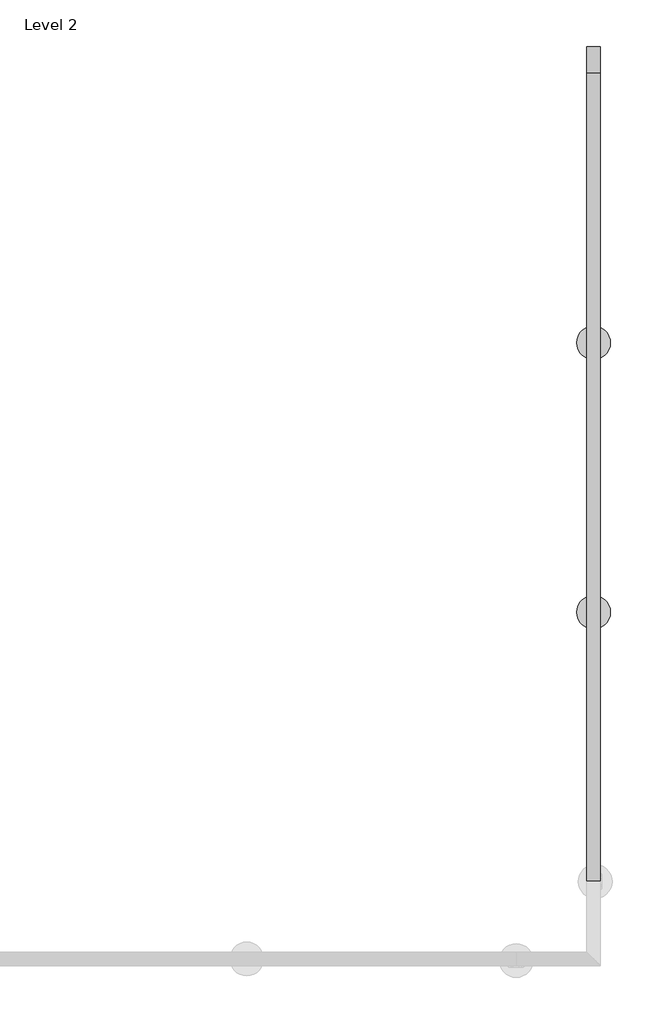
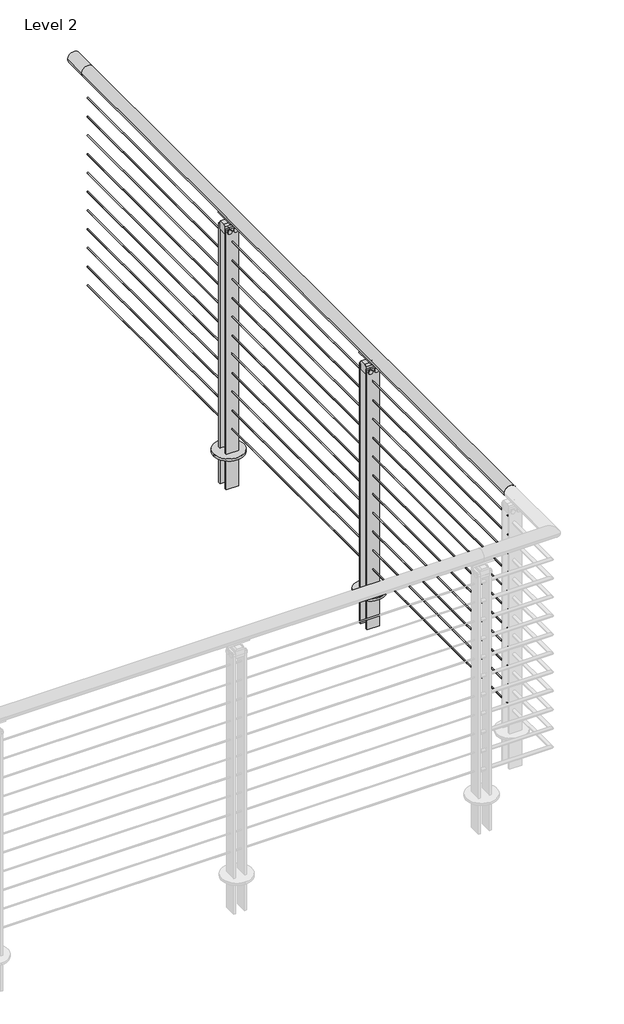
# One storey, part 31 of 31: 1 railing.
"""IFC4 building model written with IfcOpenShell, lengths in millimetres."""

import ifcopenshell
import ifcopenshell.guid

model = None  # the IFC model being written
_history = None  # IfcOwnerHistory: only IFC2X3 demands one
_inside = {}  # id of a spatial element -> (the spatial element, [elements in it])
_under = {}  # id of a project, library or spatial element -> (it, [spatial elements below it])
_declared = {}  # id of a project -> (the project, [libraries it declares])
_typed = {}  # id of a type object -> (the type object, [elements of that type])
_made_of = {}  # id of a material, layer set ... -> (it, [elements and type objects made of it])


def new_model(schema):
    """Start an empty IFC model of exactly this schema.

    Asked for "IFC4X3", IfcOpenShell would pick the latest addendum, in which some entities
    have other attributes; the version numbers below select the first issue.
    IFC2X3 requires an IfcOwnerHistory on every rooted entity: one is made here for all.
    """
    global model, _history
    if schema == "IFC4X3":
        model = ifcopenshell.file(schema_version=(4, 3, 0, 0))
    else:
        model = ifcopenshell.file(schema=schema)
    _inside.clear()
    _under.clear()
    _declared.clear()
    _typed.clear()
    _made_of.clear()
    _history = None
    if model.schema == "IFC2X3":
        org = make("IfcOrganization", Name="unknown")
        user = make(
            "IfcPersonAndOrganization",
            ThePerson=make("IfcPerson", FamilyName="unknown"),
            TheOrganization=org,
        )
        app = make(
            "IfcApplication",
            ApplicationDeveloper=org,
            Version="unknown",
            ApplicationFullName="unknown",
            ApplicationIdentifier="unknown",
        )
        _history = make(
            "IfcOwnerHistory",
            OwningUser=user,
            OwningApplication=app,
            ChangeAction="ADDED",
            CreationDate=0,
        )
    return model


def make(cls, **values):
    """One entity of the class cls with the attributes given. An attribute that is None is left unset."""
    return model.create_entity(
        cls, **{name: value for name, value in values.items() if value is not None}
    )


def rooted(cls, **values):
    """An entity with a GlobalId (a new one), such as an element, a storey or a relation."""
    return make(cls, GlobalId=ifcopenshell.guid.new(), OwnerHistory=_history, **values)


def si_unit(unit_type, name, prefix=None):
    """IfcSIUnit, for example si_unit("LENGTHUNIT", "METRE", prefix="MILLI")."""
    return make("IfcSIUnit", UnitType=unit_type, Prefix=prefix, Name=name)


def assignment(units):
    """IfcUnitAssignment: the units of a project."""
    return None if units is None else make("IfcUnitAssignment", Units=units)


def point(xyz):
    """IfcCartesianPoint."""
    return None if xyz is None else make("IfcCartesianPoint", Coordinates=xyz)


def direction(xyz):
    """IfcDirection."""
    return None if xyz is None else make("IfcDirection", DirectionRatios=xyz)


def frame(location, z_axis=None, x_axis=None):
    """IfcAxis2Placement3D, a coordinate frame: its origin and axes. An axis left out is left unset."""
    return make(
        "IfcAxis2Placement3D",
        Location=point(location),
        Axis=direction(z_axis),
        RefDirection=direction(x_axis),
    )


def frame_2d(location, x_axis=None):
    """IfcAxis2Placement2D, a coordinate frame in the plane: its origin and x axis."""
    return make(
        "IfcAxis2Placement2D", Location=point(location), RefDirection=direction(x_axis)
    )


def origin():
    """The frame at (0, 0, 0) with its axes left unset."""
    return frame((0.0, 0.0, 0.0))


def place(relative_to, where):
    """IfcLocalPlacement: puts the frame where relative to a parent placement (None: the world)."""
    return make(
        "IfcLocalPlacement", PlacementRelTo=relative_to, RelativePlacement=where
    )


def context(
    kind, dimensions, precision=None, world=None, true_north=None, identifier=None
):
    """IfcGeometricRepresentationContext, for example the 3D "Model" context."""
    return make(
        "IfcGeometricRepresentationContext",
        ContextIdentifier=identifier,
        ContextType=kind,
        CoordinateSpaceDimension=dimensions,
        Precision=precision,
        WorldCoordinateSystem=world,
        TrueNorth=true_north,
    )


def project(units=None, contexts=None):
    """IfcProject with its units and contexts."""
    return rooted(
        "IfcProject",
        Name="project",
        RepresentationContexts=contexts,
        UnitsInContext=assignment(units),
    )


def spatial(cls, under=None, at=None, **own):
    """A site, building, storey or space (cls), placed at a placement, below another one or the project."""
    s = rooted(cls, ObjectPlacement=at, **own)
    if under is not None:
        _under.setdefault(under.id(), (under, []))[1].append(s)
    return s


def polyline(points):
    """IfcPolyline through the points."""
    return make("IfcPolyline", Points=[point(p) for p in points])


def circle_curve(where, radius):
    """IfcCircle in the frame where."""
    return make("IfcCircle", Position=where, Radius=radius)


def trimmed(basis, trim1, trim2, sense, master):
    """IfcTrimmedCurve: the piece of a basis curve between two trims."""
    return make(
        "IfcTrimmedCurve",
        BasisCurve=basis,
        Trim1=trim1,
        Trim2=trim2,
        SenseAgreement=sense,
        MasterRepresentation=master,
    )


def segment(curve, same_sense, transition):
    """IfcCompositeCurveSegment."""
    return make(
        "IfcCompositeCurveSegment",
        Transition=transition,
        SameSense=same_sense,
        ParentCurve=curve,
    )


def composite_curve(segments, self_intersect=None):
    """IfcCompositeCurve: segments joined end to end."""
    return make("IfcCompositeCurve", Segments=segments, SelfIntersect=self_intersect)


def outline(outer, holes=None, kind="AREA"):
    """IfcArbitraryClosedProfileDef: a profile drawn as a closed curve; with holes, ...WithVoids."""
    if holes is None:
        return make("IfcArbitraryClosedProfileDef", ProfileType=kind, OuterCurve=outer)
    return make(
        "IfcArbitraryProfileDefWithVoids",
        ProfileType=kind,
        OuterCurve=outer,
        InnerCurves=holes,
    )


def extrude(swept, where, along, depth):
    """IfcExtrudedAreaSolid: the profile swept, set in the frame where, extruded along a direction by depth."""
    return make(
        "IfcExtrudedAreaSolid",
        SweptArea=swept,
        Position=where,
        ExtrudedDirection=direction(along),
        Depth=depth,
    )


def shape(context_of_items, identifier, shape_type, items):
    """IfcShapeRepresentation: the items that make up one representation, for example the "Body"."""
    return make(
        "IfcShapeRepresentation",
        ContextOfItems=context_of_items,
        RepresentationIdentifier=identifier,
        RepresentationType=shape_type,
        Items=items,
    )


def made_of(thing, what):
    """Note that an element or type object is made of a material, layer set ...; save() writes the relation."""
    if what is not None:
        _made_of.setdefault(what.id(), (what, []))[1].append(thing)
    return thing


def element(
    cls,
    number,
    at=None,
    inside=None,
    cuts=None,
    type_object=None,
    material=None,
    context=None,
    identifier="Body",
    shape_type=None,
    held_by="IfcProductDefinitionShape",
    body=None,
    shapes=None,
    **own,
):
    """One element of the class cls, such as IfcWall. Its Tag is "e" and its number.

    at: its placement. inside: the storey or other place that contains it. cuts: it is an
    opening in that element (IfcRelVoidsElement). A single representation is given by context,
    identifier, shape_type and body (its items); several are given by shapes. held_by: the class
    of the entity that holds the representations. save() writes the other relations.
    """
    e = rooted(cls, Tag="e%d" % number, ObjectPlacement=at, **own)
    if body is not None:
        shapes = [shape(context, identifier, shape_type, body)]
    if shapes is not None:
        e.Representation = make(held_by, Representations=shapes)
    if inside is not None:
        _inside.setdefault(inside.id(), (inside, []))[1].append(e)
    if cuts is not None:
        rooted(
            "IfcRelVoidsElement", RelatingBuildingElement=cuts, RelatedOpeningElement=e
        )
    if type_object is not None:
        _typed.setdefault(type_object.id(), (type_object, []))[1].append(e)
    return made_of(e, material)


def aggregate(whole, parts):
    """IfcRelAggregates: a whole, such as a stair, and the parts it consists of."""
    return rooted("IfcRelAggregates", RelatingObject=whole, RelatedObjects=parts)


def save(model, path):
    """Write the relations noted so far, then the file.

    IfcRelAggregates (storeys below a building ...), IfcRelContainedInSpatialStructure (elements
    in a storey), IfcRelDefinesByType, IfcRelAssociatesMaterial and IfcRelDeclares: one each for
    every whole, place, type object, material and project.
    """
    for whole, parts in _under.values():
        aggregate(whole, parts)
    for where, things in _inside.values():
        rooted(
            "IfcRelContainedInSpatialStructure",
            RelatedElements=things,
            RelatingStructure=where,
        )
    for kind, things in _typed.values():
        rooted("IfcRelDefinesByType", RelatedObjects=things, RelatingType=kind)
    for what, things in _made_of.values():
        rooted("IfcRelAssociatesMaterial", RelatedObjects=things, RelatingMaterial=what)
    for by, libraries in _declared.values():
        rooted("IfcRelDeclares", RelatingContext=by, RelatedDefinitions=libraries)
    model.write(path)


def plane_surface(at):
    """IfcPlane: the flat surface through the origin of the frame at, square to its z axis."""
    return make("IfcPlane", Position=at)


def cylinder_surface(at, radius):
    """IfcCylindricalSurface: all points at the distance radius from the z axis of the frame at."""
    return make("IfcCylindricalSurface", Position=at, Radius=radius)


def revolved_surface(curve, axis_point, axis_direction):
    """IfcSurfaceOfRevolution: the curve turned about the line through axis_point along axis_direction."""
    return make(
        "IfcSurfaceOfRevolution",
        SweptCurve=make("IfcArbitraryOpenProfileDef", ProfileType="CURVE", Curve=curve),
        AxisPosition=make("IfcAxis1Placement", Location=point(axis_point), Axis=direction(axis_direction)),
    )


def advanced_brep(points, edges, surfaces, faces):
    """IfcAdvancedBrep: a solid bounded by faces that lie on surfaces and meet in shared edges.

    An edge is (start, end): straight between two places in points (the first is 0);
    or (start, end, curve); or (start, end, curve, False) where it runs against its curve.
    A face is (place in surfaces, loops), or (place, loops, False) where it looks against
    its surface's normal. A loop lists edges by number (the first is 1), with a minus sign
    where the edge is run from its end to its start. The first loop is the outer one.
    """
    corners = [point(p) for p in points]
    vertices = [make("IfcVertexPoint", VertexGeometry=c) for c in corners]
    made = []
    for start, end, *more in edges:
        made.append(
            make(
                "IfcEdgeCurve",
                EdgeStart=vertices[start],
                EdgeEnd=vertices[end],
                EdgeGeometry=more[0] if more else make("IfcPolyline", Points=[corners[start], corners[end]]),
                SameSense=more[1] if len(more) > 1 else True,
            )
        )
    hull = []
    for where, loops, *sense in faces:
        bounds = []
        for j, loop in enumerate(loops):
            ring = [make("IfcOrientedEdge", EdgeElement=made[abs(k) - 1], Orientation=k > 0) for k in loop]
            bounds.append(
                make(
                    "IfcFaceOuterBound" if j == 0 else "IfcFaceBound",
                    Bound=make("IfcEdgeLoop", EdgeList=ring),
                    Orientation=True,
                )
            )
        hull.append(make("IfcAdvancedFace", Bounds=bounds, FaceSurface=surfaces[where], SameSense=sense[0] if sense else True))
    return make("IfcAdvancedBrep", Outer=make("IfcClosedShell", CfsFaces=hull))


model = new_model("IFC4")

# Units and contexts
model_context = context("Model", 3, world=origin())
ifc_project = project(units=[si_unit("LENGTHUNIT", "METRE", prefix="MILLI")], contexts=[model_context])

# Site, building, storey
site = spatial("IfcSite", under=ifc_project)
building = spatial("IfcBuilding", under=site)
storey = spatial("IfcBuildingStorey", under=building, Name="Level 2", Elevation=3048.0)

# Railing
placement = place(None, origin())
element("IfcRailing", 1, ObjectType="VIVA-BLADE-Cable-Core Mount-Straight", at=placement, inside=storey, context=model_context, shape_type="SolidModel", body=[
    advanced_brep(
    [(71190.5310647, -51812.6426165, 4102.1), (71139.7310647, -51812.6426165, 4102.1), (71190.5310647, -48764.6426165, 4102.1), (71139.7310647, -48764.6426165, 4102.1), (71190.5310647, -48663.0426165, 4102.1), (71139.7310647, -48663.0426165, 4102.1)],
    [
        (0, 1, circle_curve(frame((71165.1310647, -51812.6426165, 4102.1), z_axis=(0.0, -1.0, 0.0), x_axis=(-1.0, 0.0, 0.0)), 25.4)),
        (1, 0, circle_curve(frame((71165.1310647, -51812.6426165, 4102.1), z_axis=(0.0, -1.0, 0.0), x_axis=(-1.0, 0.0, 0.0)), 25.4)),
        (0, 2),
        (2, 3, circle_curve(frame((71165.1310647, -48764.6426165, 4102.1), z_axis=(0.0, -1.0, 0.0), x_axis=(-1.0, 0.0, 0.0)), 25.4)),
        (3, 1),
        (3, 2, circle_curve(frame((71165.1310647, -48764.6426165, 4102.1), z_axis=(0.0, -1.0, 0.0), x_axis=(-1.0, 0.0, 0.0)), 25.4)),
        (4, 5, circle_curve(frame((71165.1310647, -48663.0426165, 4102.1), z_axis=(0.0, 1.0, 0.0), x_axis=(-1.0, 0.0, 0.0)), 25.4)),
        (5, 4, circle_curve(frame((71165.1310647, -48663.0426165, 4102.1), z_axis=(0.0, 1.0, 0.0), x_axis=(-1.0, 0.0, 0.0)), 25.4)),
        (2, 4),
        (5, 3),
    ],
    [
        plane_surface(frame((71165.1310647, -51812.6426165, 4127.5), z_axis=(0.0, -1.0, 0.0), x_axis=(0.0, 0.0, 1.0))),
        cylinder_surface(frame((71165.1310647, -51812.6426165, 4102.1), z_axis=(0.0, -1.0, 0.0), x_axis=(-1.0, 0.0, 0.0)), 25.4),
        plane_surface(frame((71165.1310647, -48663.0426165, 4127.5), z_axis=(0.0, 1.0, 0.0), x_axis=(0.0, 0.0, 1.0))),
        cylinder_surface(frame((71165.1310647, -48764.6426165, 4102.1), z_axis=(0.0, -1.0, 0.0), x_axis=(-1.0, 0.0, 0.0)), 25.4),
    ],
    [
        (0, [[1, 2]]),
        (1, [[-1, 3, 4, 5]]),
        (1, [[-2, -5, 6, -3]]),
        (2, [[7, 8]]),
        (3, [[-4, 9, -8, 10]]),
        (3, [[-6, -10, -7, -9]]),
    ],
),
    extrude(outline(composite_curve([segment(trimmed(circle_curve(frame_2d((3985.4124, 71165.1310647)), 2.3876), [point((3985.4124, 71162.7434647))], [point((3985.4124, 71167.5186647))], False, "CARTESIAN"), True, "CONTINUOUS"), segment(trimmed(circle_curve(frame_2d((3985.4124, 71165.1310647)), 2.3876), [point((3985.4124, 71167.5186647))], [point((3985.4124, 71162.7434647))], False, "CARTESIAN"), True, "CONTINUOUS")], self_intersect=False)), frame((0.0, -51812.6426165, 0.0), z_axis=(0.0, 1.0, 0.0), x_axis=(0.0, 0.0, 1.0)), (0.0, 0.0, 1.0), 3048.0),
    extrude(outline(composite_curve([segment(trimmed(circle_curve(frame_2d((3902.8624, 71165.1310647)), 2.3876), [point((3902.8624, 71162.7434647))], [point((3902.8624, 71167.5186647))], False, "CARTESIAN"), True, "CONTINUOUS"), segment(trimmed(circle_curve(frame_2d((3902.8624, 71165.1310647)), 2.3876), [point((3902.8624, 71167.5186647))], [point((3902.8624, 71162.7434647))], False, "CARTESIAN"), True, "CONTINUOUS")], self_intersect=False)), frame((0.0, -51812.6426165, 0.0), z_axis=(0.0, 1.0, 0.0), x_axis=(0.0, 0.0, 1.0)), (0.0, 0.0, 1.0), 3048.0),
    extrude(outline(composite_curve([segment(trimmed(circle_curve(frame_2d((3820.3124, 71165.1310647)), 2.3876), [point((3820.3124, 71162.7434647))], [point((3820.3124, 71167.5186647))], False, "CARTESIAN"), True, "CONTINUOUS"), segment(trimmed(circle_curve(frame_2d((3820.3124, 71165.1310647)), 2.3876), [point((3820.3124, 71167.5186647))], [point((3820.3124, 71162.7434647))], False, "CARTESIAN"), True, "CONTINUOUS")], self_intersect=False)), frame((0.0, -51812.6426165, 0.0), z_axis=(0.0, 1.0, 0.0), x_axis=(0.0, 0.0, 1.0)), (0.0, 0.0, 1.0), 3048.0),
    extrude(outline(composite_curve([segment(trimmed(circle_curve(frame_2d((3737.7624, 71165.1310647)), 2.3876), [point((3737.7624, 71162.7434647))], [point((3737.7624, 71167.5186647))], False, "CARTESIAN"), True, "CONTINUOUS"), segment(trimmed(circle_curve(frame_2d((3737.7624, 71165.1310647)), 2.3876), [point((3737.7624, 71167.5186647))], [point((3737.7624, 71162.7434647))], False, "CARTESIAN"), True, "CONTINUOUS")], self_intersect=False)), frame((0.0, -51812.6426165, 0.0), z_axis=(0.0, 1.0, 0.0), x_axis=(0.0, 0.0, 1.0)), (0.0, 0.0, 1.0), 3048.0),
    extrude(outline(composite_curve([segment(trimmed(circle_curve(frame_2d((3655.2124, 71165.1310647)), 2.3876), [point((3655.2124, 71162.7434647))], [point((3655.2124, 71167.5186647))], False, "CARTESIAN"), True, "CONTINUOUS"), segment(trimmed(circle_curve(frame_2d((3655.2124, 71165.1310647)), 2.3876), [point((3655.2124, 71167.5186647))], [point((3655.2124, 71162.7434647))], False, "CARTESIAN"), True, "CONTINUOUS")], self_intersect=False)), frame((0.0, -51812.6426165, 0.0), z_axis=(0.0, 1.0, 0.0), x_axis=(0.0, 0.0, 1.0)), (0.0, 0.0, 1.0), 3048.0),
    extrude(outline(composite_curve([segment(trimmed(circle_curve(frame_2d((3572.6624, 71165.1310647)), 2.3876), [point((3572.6624, 71162.7434647))], [point((3572.6624, 71167.5186647))], False, "CARTESIAN"), True, "CONTINUOUS"), segment(trimmed(circle_curve(frame_2d((3572.6624, 71165.1310647)), 2.3876), [point((3572.6624, 71167.5186647))], [point((3572.6624, 71162.7434647))], False, "CARTESIAN"), True, "CONTINUOUS")], self_intersect=False)), frame((0.0, -51812.6426165, 0.0), z_axis=(0.0, 1.0, 0.0), x_axis=(0.0, 0.0, 1.0)), (0.0, 0.0, 1.0), 3048.0),
    extrude(outline(composite_curve([segment(trimmed(circle_curve(frame_2d((3490.1124, 71165.1310647)), 2.3876), [point((3490.1124, 71162.7434647))], [point((3490.1124, 71167.5186647))], False, "CARTESIAN"), True, "CONTINUOUS"), segment(trimmed(circle_curve(frame_2d((3490.1124, 71165.1310647)), 2.3876), [point((3490.1124, 71167.5186647))], [point((3490.1124, 71162.7434647))], False, "CARTESIAN"), True, "CONTINUOUS")], self_intersect=False)), frame((0.0, -51812.6426165, 0.0), z_axis=(0.0, 1.0, 0.0), x_axis=(0.0, 0.0, 1.0)), (0.0, 0.0, 1.0), 3048.0),
    extrude(outline(composite_curve([segment(trimmed(circle_curve(frame_2d((3407.5624, 71165.1310647)), 2.3876), [point((3407.5624, 71162.7434647))], [point((3407.5624, 71167.5186647))], False, "CARTESIAN"), True, "CONTINUOUS"), segment(trimmed(circle_curve(frame_2d((3407.5624, 71165.1310647)), 2.3876), [point((3407.5624, 71167.5186647))], [point((3407.5624, 71162.7434647))], False, "CARTESIAN"), True, "CONTINUOUS")], self_intersect=False)), frame((0.0, -51812.6426165, 0.0), z_axis=(0.0, 1.0, 0.0), x_axis=(0.0, 0.0, 1.0)), (0.0, 0.0, 1.0), 3048.0),
    extrude(outline(composite_curve([segment(trimmed(circle_curve(frame_2d((3325.0124, 71165.1310647)), 2.3876), [point((3325.0124, 71162.7434647))], [point((3325.0124, 71167.5186647))], False, "CARTESIAN"), True, "CONTINUOUS"), segment(trimmed(circle_curve(frame_2d((3325.0124, 71165.1310647)), 2.3876), [point((3325.0124, 71167.5186647))], [point((3325.0124, 71162.7434647))], False, "CARTESIAN"), True, "CONTINUOUS")], self_intersect=False)), frame((0.0, -51812.6426165, 0.0), z_axis=(0.0, 1.0, 0.0), x_axis=(0.0, 0.0, 1.0)), (0.0, 0.0, 1.0), 3048.0),
    extrude(outline(composite_curve([segment(trimmed(circle_curve(frame_2d((3242.4624, 71165.1310647)), 2.3876), [point((3242.4624, 71162.7434647))], [point((3242.4624, 71167.5186647))], False, "CARTESIAN"), True, "CONTINUOUS"), segment(trimmed(circle_curve(frame_2d((3242.4624, 71165.1310647)), 2.3876), [point((3242.4624, 71167.5186647))], [point((3242.4624, 71162.7434647))], False, "CARTESIAN"), True, "CONTINUOUS")], self_intersect=False)), frame((0.0, -51812.6426165, 0.0), z_axis=(0.0, 1.0, 0.0), x_axis=(0.0, 0.0, 1.0)), (0.0, 0.0, 1.0), 3048.0),
    extrude(outline(composite_curve([segment(trimmed(circle_curve(frame_2d((3159.9124, 71165.1310647)), 2.3876), [point((3159.9124, 71162.7434647))], [point((3159.9124, 71167.5186647))], False, "CARTESIAN"), True, "CONTINUOUS"), segment(trimmed(circle_curve(frame_2d((3159.9124, 71165.1310647)), 2.3876), [point((3159.9124, 71167.5186647))], [point((3159.9124, 71162.7434647))], False, "CARTESIAN"), True, "CONTINUOUS")], self_intersect=False)), frame((0.0, -51812.6426165, 0.0), z_axis=(0.0, 1.0, 0.0), x_axis=(0.0, 0.0, 1.0)), (0.0, 0.0, 1.0), 3048.0),
    extrude(outline(polyline([(71139.7312681, -49807.7174522), (71139.7312681, -49799.6926165), (71190.5335927, -49799.6926165), (71190.5335927, -49807.7174522), (71139.7312681, -49807.7174522)])), frame((0.0, 0.0, 2901.95), z_axis=(0.0, 0.0, 1.0), x_axis=(1.0, 0.0, 0.0)), (0.0, 0.0, 1.0), 146.05),
    extrude(outline(polyline([(71139.7312681, -49761.5926546), (71139.7312681, -49753.5916546), (71190.5335927, -49753.5916546), (71190.5335927, -49761.5926546), (71139.7312681, -49761.5926546)])), frame((0.0, 0.0, 2901.95), z_axis=(0.0, 0.0, 1.0), x_axis=(1.0, 0.0, 0.0)), (0.0, 0.0, 1.0), 146.05),
    extrude(outline(composite_curve([segment(trimmed(circle_curve(frame_2d((71165.1310647, -49780.6545534)), 63.4988059), [point((71228.6298707, -49780.6545534))], [point((71101.6322588, -49780.6545534))], False, "CARTESIAN"), True, "CONTINUOUS"), segment(trimmed(circle_curve(frame_2d((71165.1310647, -49780.6545534)), 63.4988059), [point((71101.6322588, -49780.6545534))], [point((71228.6298707, -49780.6545534))], False, "CARTESIAN"), True, "CONTINUOUS")], self_intersect=False)), frame((0.0, 0.0, 3048.0), z_axis=(0.0, 0.0, 1.0), x_axis=(1.0, 0.0, 0.0)), (0.0, 0.0, 1.0), 9.525),
    advanced_brep(
    [(71152.3709411, -49735.4052165, 4080.0967655), (71177.2430056, -49735.4052165, 4079.9535285), (71180.0519359, -49735.4052165, 4075.1267745), (71148.5350437, -49735.4052165, 4075.707533), (71152.3709411, -49825.8800165, 4080.0967655), (71148.5350437, -49825.8800165, 4075.707533), (71180.1657293, -49825.8800165, 4075.1893964), (71177.3299778, -49825.8800165, 4080.0018447)],
    [
        (0, 1, circle_curve(frame((71164.934744, -49735.4052165, 4102.2115898), z_axis=(0.0, -1.0, 0.0), x_axis=(-1.0, 0.0, 0.0)), 25.4345159)),
        (1, 2, circle_curve(frame((71178.5746309, -49735.4052165, 4077.4993599), z_axis=(0.0, 1.0, 0.0), x_axis=(-1.0, 0.0, 0.0)), 2.7949225)),
        (2, 3, circle_curve(frame((71164.8012809, -49735.4052165, 4102.9742164), z_axis=(0.0, 1.0, 0.0), x_axis=(-1.0, 0.0, 0.0)), 31.75)),
        (3, 0, circle_curve(frame((71150.8233834, -49735.4052165, 4077.5784521), z_axis=(0.0, 1.0, 0.0), x_axis=(-1.0, 0.0, 0.0)), 2.9558141)),
        (4, 5, circle_curve(frame((71150.8233834, -49825.8800165, 4077.5784521), z_axis=(0.0, -1.0, 0.0), x_axis=(-1.0, 0.0, 0.0)), 2.9558141)),
        (5, 6, circle_curve(frame((71164.8012809, -49825.8800165, 4102.9742164), z_axis=(0.0, -1.0, 0.0), x_axis=(-1.0, 0.0, 0.0)), 31.75)),
        (6, 7, circle_curve(frame((71178.5746309, -49825.8800165, 4077.4993599), z_axis=(0.0, -1.0, 0.0), x_axis=(-1.0, 0.0, 0.0)), 2.7949225)),
        (7, 4, circle_curve(frame((71164.934744, -49825.8800165, 4102.2115898), z_axis=(0.0, 1.0, 0.0), x_axis=(-1.0, 0.0, 0.0)), 25.4345159)),
        (0, 4),
        (7, 1),
        (6, 2),
        (5, 3),
    ],
    [
        plane_surface(frame((71139.5002281, -49735.4052165, 4102.2115898), z_axis=(0.0, 1.0, 0.0), x_axis=(0.0, 0.0, -1.0))),
        plane_surface(frame((71139.5002281, -49825.8800165, 4102.2115898), z_axis=(0.0, -1.0, 0.0), x_axis=(0.0, 0.0, 1.0))),
        revolved_surface(polyline([(71139.5002281, -49825.8800165, 4102.2115898), (71139.5002281, -49735.4052165, 4102.2115898)]), (71164.934744, -49825.8800165, 4102.2115898), (0.0, -1.0, 0.0)),
        cylinder_surface(frame((71178.5746309, -49825.8800165, 4077.4993599), z_axis=(0.0, 1.0, 0.0), x_axis=(-1.0, 0.0, 0.0)), 2.7949225),
        cylinder_surface(frame((71164.8012809, -49825.8800165, 4102.9742164), z_axis=(0.0, 1.0, 0.0), x_axis=(-1.0, 0.0, 0.0)), 31.75),
        cylinder_surface(frame((71150.8233834, -49825.8800165, 4077.5784521), z_axis=(0.0, 1.0, 0.0), x_axis=(-1.0, 0.0, 0.0)), 2.9558141),
    ],
    [
        (0, [[1, 2, 3, 4]]),
        (1, [[5, 6, 7, 8]]),
        (2, [[-1, 9, -8, 10]]),
        (3, [[-2, -10, -7, 11]]),
        (4, [[-3, -11, -6, 12]]),
        (5, [[-4, -12, -5, -9]]),
    ],
),
    extrude(outline(composite_curve([segment(polyline([(-49767.9426165, 4062.4125), (-49793.3426165, 4062.4125)]), True, "CONTINUOUS"), segment(trimmed(circle_curve(frame_2d((-49807.7105314, 4062.4125)), 14.3679149), [point((-49793.3426165, 4062.4125))], [point((-49807.7105314, 4076.7804149))], True, "CARTESIAN"), True, "CONTINUOUS"), segment(polyline([(-49807.7105314, 4076.7804149), (-49753.5747017, 4076.7804149)]), True, "CONTINUOUS"), segment(trimmed(circle_curve(frame_2d((-49753.5747017, 4062.4125)), 14.3679149), [point((-49753.5747017, 4076.7804149))], [point((-49767.9426165, 4062.4125))], True, "CARTESIAN"), True, "CONTINUOUS")], self_intersect=False)), frame((71162.5910647, 0.0, 0.0), z_axis=(1.0, 0.0, 0.0), x_axis=(0.0, 1.0, 0.0)), (0.0, 0.0, 1.0), 5.08),
    extrude(outline(polyline([(71139.7312681, -49807.7174522), (71139.7312681, -49799.6926165), (71190.5335927, -49799.6926165), (71190.5335927, -49807.7174522), (71139.7312681, -49807.7174522)])), frame((0.0, 0.0, 3048.0), z_axis=(0.0, 0.0, 1.0), x_axis=(1.0, 0.0, 0.0)), (0.0, 0.0, 1.0), 996.95),
    extrude(outline(composite_curve([segment(trimmed(circle_curve(frame_2d((4034.0416929, 71177.8335417)), 8.89), [point((4034.0416929, 71186.7235417))], [point((4034.0416929, 71168.9435417))], False, "CARTESIAN"), True, "CONTINUOUS"), segment(trimmed(circle_curve(frame_2d((4034.0416929, 71177.8335417)), 8.89), [point((4034.0416929, 71168.9435417))], [point((4034.0416929, 71186.7235417))], False, "CARTESIAN"), True, "CONTINUOUS")], self_intersect=False)), frame((0.0, -49812.3926165, 0.0), z_axis=(0.0, 1.0, 0.0), x_axis=(0.0, 0.0, 1.0)), (0.0, 0.0, 1.0), 63.4880631),
    extrude(outline(composite_curve([segment(trimmed(circle_curve(frame_2d((4034.0416929, 71152.4336437)), 8.89), [point((4034.0416929, 71161.3236437))], [point((4034.0416929, 71143.5436437))], False, "CARTESIAN"), True, "CONTINUOUS"), segment(trimmed(circle_curve(frame_2d((4034.0416929, 71152.4336437)), 8.89), [point((4034.0416929, 71143.5436437))], [point((4034.0416929, 71161.3236437))], False, "CARTESIAN"), True, "CONTINUOUS")], self_intersect=False)), frame((0.0, -49812.3926165, 0.0), z_axis=(0.0, 1.0, 0.0), x_axis=(0.0, 0.0, 1.0)), (0.0, 0.0, 1.0), 63.4880631),
    extrude(outline(polyline([(-49799.6926165, 4022.7123), (-49799.6926165, 4056.0625), (-49793.3426165, 4062.4125), (-49767.9426165, 4062.4125), (-49761.5926165, 4056.0625), (-49761.5926165, 4022.7123), (-49799.6926165, 4022.7123)])), frame((71139.7310647, 0.0, 0.0), z_axis=(1.0, 0.0, 0.0), x_axis=(0.0, 1.0, 0.0)), (0.0, 0.0, 1.0), 50.8025279),
    extrude(outline(polyline([(71139.7312681, -49761.5926546), (71139.7312681, -49753.5916546), (71190.5335927, -49753.5916546), (71190.5335927, -49761.5926546), (71139.7312681, -49761.5926546)])), frame((0.0, 0.0, 3048.0), z_axis=(0.0, 0.0, 1.0), x_axis=(1.0, 0.0, 0.0)), (0.0, 0.0, 1.0), 996.95),
    extrude(outline(polyline([(71139.7312681, -50823.7174522), (71139.7312681, -50815.6926165), (71190.5335927, -50815.6926165), (71190.5335927, -50823.7174522), (71139.7312681, -50823.7174522)])), frame((0.0, 0.0, 2901.95), z_axis=(0.0, 0.0, 1.0), x_axis=(1.0, 0.0, 0.0)), (0.0, 0.0, 1.0), 146.05),
    extrude(outline(polyline([(71139.7312681, -50777.5926546), (71139.7312681, -50769.5916546), (71190.5335927, -50769.5916546), (71190.5335927, -50777.5926546), (71139.7312681, -50777.5926546)])), frame((0.0, 0.0, 2901.95), z_axis=(0.0, 0.0, 1.0), x_axis=(1.0, 0.0, 0.0)), (0.0, 0.0, 1.0), 146.05),
    extrude(outline(composite_curve([segment(trimmed(circle_curve(frame_2d((71165.1310647, -50796.6545534)), 63.4988059), [point((71228.6298707, -50796.6545534))], [point((71101.6322588, -50796.6545534))], False, "CARTESIAN"), True, "CONTINUOUS"), segment(trimmed(circle_curve(frame_2d((71165.1310647, -50796.6545534)), 63.4988059), [point((71101.6322588, -50796.6545534))], [point((71228.6298707, -50796.6545534))], False, "CARTESIAN"), True, "CONTINUOUS")], self_intersect=False)), frame((0.0, 0.0, 3048.0), z_axis=(0.0, 0.0, 1.0), x_axis=(1.0, 0.0, 0.0)), (0.0, 0.0, 1.0), 9.525),
    advanced_brep(
    [(71152.3709411, -50751.4052165, 4080.0967655), (71177.2430056, -50751.4052165, 4079.9535285), (71180.0519359, -50751.4052165, 4075.1267745), (71148.5350437, -50751.4052165, 4075.707533), (71152.3709411, -50841.8800165, 4080.0967655), (71148.5350437, -50841.8800165, 4075.707533), (71180.1657293, -50841.8800165, 4075.1893964), (71177.3299778, -50841.8800165, 4080.0018447)],
    [
        (0, 1, circle_curve(frame((71164.934744, -50751.4052165, 4102.2115898), z_axis=(0.0, -1.0, 0.0), x_axis=(-1.0, 0.0, 0.0)), 25.4345159)),
        (1, 2, circle_curve(frame((71178.5746309, -50751.4052165, 4077.4993599), z_axis=(0.0, 1.0, 0.0), x_axis=(-1.0, 0.0, 0.0)), 2.7949225)),
        (2, 3, circle_curve(frame((71164.8012809, -50751.4052165, 4102.9742164), z_axis=(0.0, 1.0, 0.0), x_axis=(-1.0, 0.0, 0.0)), 31.75)),
        (3, 0, circle_curve(frame((71150.8233834, -50751.4052165, 4077.5784521), z_axis=(0.0, 1.0, 0.0), x_axis=(-1.0, 0.0, 0.0)), 2.9558141)),
        (4, 5, circle_curve(frame((71150.8233834, -50841.8800165, 4077.5784521), z_axis=(0.0, -1.0, 0.0), x_axis=(-1.0, 0.0, 0.0)), 2.9558141)),
        (5, 6, circle_curve(frame((71164.8012809, -50841.8800165, 4102.9742164), z_axis=(0.0, -1.0, 0.0), x_axis=(-1.0, 0.0, 0.0)), 31.75)),
        (6, 7, circle_curve(frame((71178.5746309, -50841.8800165, 4077.4993599), z_axis=(0.0, -1.0, 0.0), x_axis=(-1.0, 0.0, 0.0)), 2.7949225)),
        (7, 4, circle_curve(frame((71164.934744, -50841.8800165, 4102.2115898), z_axis=(0.0, 1.0, 0.0), x_axis=(-1.0, 0.0, 0.0)), 25.4345159)),
        (0, 4),
        (7, 1),
        (6, 2),
        (5, 3),
    ],
    [
        plane_surface(frame((71139.5002281, -50751.4052165, 4102.2115898), z_axis=(0.0, 1.0, 0.0), x_axis=(0.0, 0.0, -1.0))),
        plane_surface(frame((71139.5002281, -50841.8800165, 4102.2115898), z_axis=(0.0, -1.0, 0.0), x_axis=(0.0, 0.0, 1.0))),
        revolved_surface(polyline([(71139.5002281, -50841.8800165, 4102.2115898), (71139.5002281, -50751.4052165, 4102.2115898)]), (71164.934744, -50841.8800165, 4102.2115898), (0.0, -1.0, 0.0)),
        cylinder_surface(frame((71178.5746309, -50841.8800165, 4077.4993599), z_axis=(0.0, 1.0, 0.0), x_axis=(-1.0, 0.0, 0.0)), 2.7949225),
        cylinder_surface(frame((71164.8012809, -50841.8800165, 4102.9742164), z_axis=(0.0, 1.0, 0.0), x_axis=(-1.0, 0.0, 0.0)), 31.75),
        cylinder_surface(frame((71150.8233834, -50841.8800165, 4077.5784521), z_axis=(0.0, 1.0, 0.0), x_axis=(-1.0, 0.0, 0.0)), 2.9558141),
    ],
    [
        (0, [[1, 2, 3, 4]]),
        (1, [[5, 6, 7, 8]]),
        (2, [[-1, 9, -8, 10]]),
        (3, [[-2, -10, -7, 11]]),
        (4, [[-3, -11, -6, 12]]),
        (5, [[-4, -12, -5, -9]]),
    ],
),
    extrude(outline(composite_curve([segment(polyline([(-50783.9426165, 4062.4125), (-50809.3426165, 4062.4125)]), True, "CONTINUOUS"), segment(trimmed(circle_curve(frame_2d((-50823.7105314, 4062.4125)), 14.3679149), [point((-50809.3426165, 4062.4125))], [point((-50823.7105314, 4076.7804149))], True, "CARTESIAN"), True, "CONTINUOUS"), segment(polyline([(-50823.7105314, 4076.7804149), (-50769.5747017, 4076.7804149)]), True, "CONTINUOUS"), segment(trimmed(circle_curve(frame_2d((-50769.5747017, 4062.4125)), 14.3679149), [point((-50769.5747017, 4076.7804149))], [point((-50783.9426165, 4062.4125))], True, "CARTESIAN"), True, "CONTINUOUS")], self_intersect=False)), frame((71162.5910647, 0.0, 0.0), z_axis=(1.0, 0.0, 0.0), x_axis=(0.0, 1.0, 0.0)), (0.0, 0.0, 1.0), 5.08),
    extrude(outline(polyline([(71139.7312681, -50823.7174522), (71139.7312681, -50815.6926165), (71190.5335927, -50815.6926165), (71190.5335927, -50823.7174522), (71139.7312681, -50823.7174522)])), frame((0.0, 0.0, 3048.0), z_axis=(0.0, 0.0, 1.0), x_axis=(1.0, 0.0, 0.0)), (0.0, 0.0, 1.0), 996.95),
    extrude(outline(composite_curve([segment(trimmed(circle_curve(frame_2d((4034.0416929, 71177.8335417)), 8.89), [point((4034.0416929, 71186.7235417))], [point((4034.0416929, 71168.9435417))], False, "CARTESIAN"), True, "CONTINUOUS"), segment(trimmed(circle_curve(frame_2d((4034.0416929, 71177.8335417)), 8.89), [point((4034.0416929, 71168.9435417))], [point((4034.0416929, 71186.7235417))], False, "CARTESIAN"), True, "CONTINUOUS")], self_intersect=False)), frame((0.0, -50828.3926165, 0.0), z_axis=(0.0, 1.0, 0.0), x_axis=(0.0, 0.0, 1.0)), (0.0, 0.0, 1.0), 63.4880631),
    extrude(outline(composite_curve([segment(trimmed(circle_curve(frame_2d((4034.0416929, 71152.4336437)), 8.89), [point((4034.0416929, 71161.3236437))], [point((4034.0416929, 71143.5436437))], False, "CARTESIAN"), True, "CONTINUOUS"), segment(trimmed(circle_curve(frame_2d((4034.0416929, 71152.4336437)), 8.89), [point((4034.0416929, 71143.5436437))], [point((4034.0416929, 71161.3236437))], False, "CARTESIAN"), True, "CONTINUOUS")], self_intersect=False)), frame((0.0, -50828.3926165, 0.0), z_axis=(0.0, 1.0, 0.0), x_axis=(0.0, 0.0, 1.0)), (0.0, 0.0, 1.0), 63.4880631),
    extrude(outline(polyline([(-50815.6926165, 4022.7123), (-50815.6926165, 4056.0625), (-50809.3426165, 4062.4125), (-50783.9426165, 4062.4125), (-50777.5926165, 4056.0625), (-50777.5926165, 4022.7123), (-50815.6926165, 4022.7123)])), frame((71139.7310647, 0.0, 0.0), z_axis=(1.0, 0.0, 0.0), x_axis=(0.0, 1.0, 0.0)), (0.0, 0.0, 1.0), 50.8025279),
    extrude(outline(polyline([(71139.7312681, -50777.5926546), (71139.7312681, -50769.5916546), (71190.5335927, -50769.5916546), (71190.5335927, -50777.5926546), (71139.7312681, -50777.5926546)])), frame((0.0, 0.0, 3048.0), z_axis=(0.0, 0.0, 1.0), x_axis=(1.0, 0.0, 0.0)), (0.0, 0.0, 1.0), 996.95),
])

save(model, "model.ifc")
